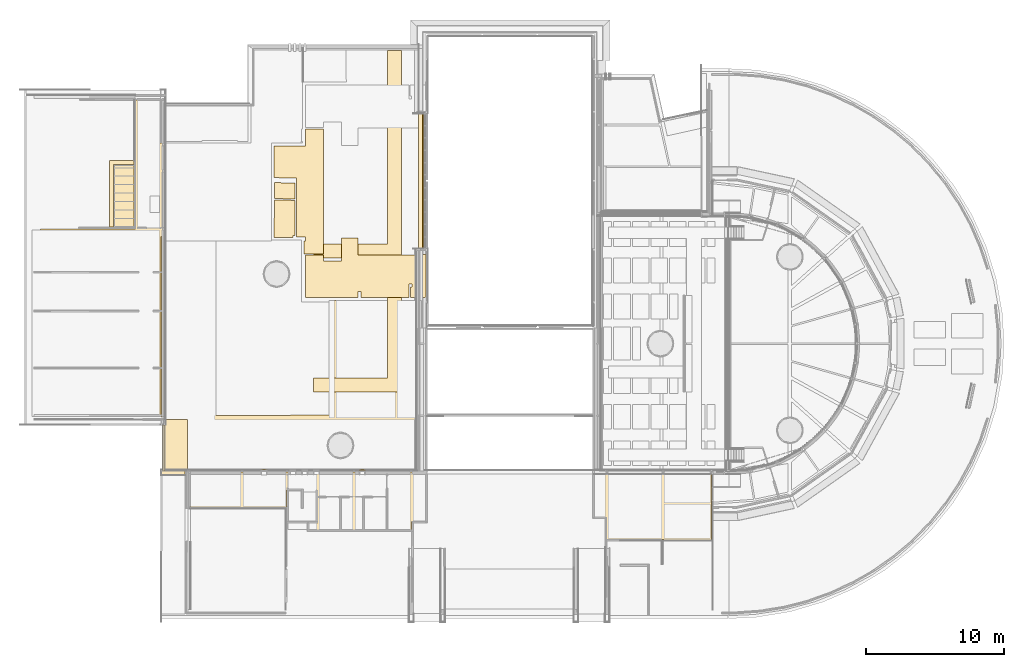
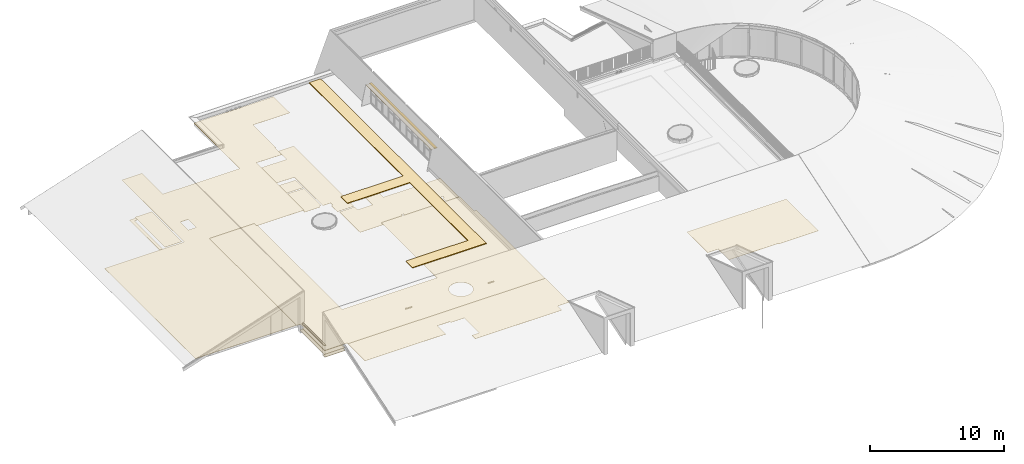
# One storey, part 55 of 66: 15 coverings, 3 windows, 2 openings.
"""IFC2X3 building model written with IfcOpenShell, lengths in millimetres."""

from ifc_helpers import new_model, entity, si_unit, converted_unit, derived_unit, direction, frame, frame_2d, origin, origin_2d_with_axis, place, context, subcontext, project, spatial, polyline, circle_curve, parameter, trimmed, segment, composite_curve, rectangle, circle, outline, extrude, clip, halfspace, source, transform, mapped, material, layer, layer_set, layer_usage, type_object, type_shapes, element, save


model = new_model("IFC2X3")

# Units and contexts
model_context = context("Model", 3, precision=0.01, world=origin(), true_north=direction((6.12303176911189e-17, 1.0)))
body_context = subcontext(model_context, "Body", "Model", "MODEL_VIEW")
ifc_project = project(units=[si_unit("LENGTHUNIT", "METRE", prefix="MILLI"), si_unit("AREAUNIT", "SQUARE_METRE"), si_unit("VOLUMEUNIT", "CUBIC_METRE"), converted_unit("PLANEANGLEUNIT", "DEGREE", entity("IfcRatioMeasure", 0.0174532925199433), si_unit("PLANEANGLEUNIT", "RADIAN"), dimensions=[0, 0, 0, 0, 0, 0, 0]), si_unit("MASSUNIT", "GRAM", prefix="KILO"), derived_unit("MASSDENSITYUNIT", [(si_unit("MASSUNIT", "GRAM", prefix="KILO"), 1), (si_unit("LENGTHUNIT", "METRE"), -3)]), derived_unit("MOMENTOFINERTIAUNIT", [(si_unit("LENGTHUNIT", "METRE"), 4)]), si_unit("TIMEUNIT", "SECOND"), si_unit("FREQUENCYUNIT", "HERTZ"), si_unit("THERMODYNAMICTEMPERATUREUNIT", "DEGREE_CELSIUS"), derived_unit("THERMALTRANSMITTANCEUNIT", [(si_unit("MASSUNIT", "GRAM", prefix="KILO"), 1), (si_unit("THERMODYNAMICTEMPERATUREUNIT", "KELVIN"), -1), (si_unit("TIMEUNIT", "SECOND"), -3)]), derived_unit("VOLUMETRICFLOWRATEUNIT", [(si_unit("LENGTHUNIT", "METRE"), 3), (si_unit("TIMEUNIT", "SECOND"), -1)]), si_unit("ELECTRICCURRENTUNIT", "AMPERE"), si_unit("ELECTRICVOLTAGEUNIT", "VOLT"), si_unit("POWERUNIT", "WATT"), si_unit("FORCEUNIT", "NEWTON", prefix="KILO"), si_unit("ILLUMINANCEUNIT", "LUX"), si_unit("LUMINOUSFLUXUNIT", "LUMEN"), si_unit("LUMINOUSINTENSITYUNIT", "CANDELA"), derived_unit("USERDEFINED", [(si_unit("MASSUNIT", "GRAM", prefix="KILO"), -1), (si_unit("LENGTHUNIT", "METRE"), -2), (si_unit("TIMEUNIT", "SECOND"), 3), (si_unit("LUMINOUSFLUXUNIT", "LUMEN"), 1)]), derived_unit("LINEARVELOCITYUNIT", [(si_unit("LENGTHUNIT", "METRE"), 1), (si_unit("TIMEUNIT", "SECOND"), -1)]), si_unit("PRESSUREUNIT", "PASCAL"), derived_unit("USERDEFINED", [(si_unit("LENGTHUNIT", "METRE"), -2), (si_unit("MASSUNIT", "GRAM", prefix="KILO"), 1), (si_unit("TIMEUNIT", "SECOND"), -2)]), derived_unit("LINEARFORCEUNIT", [(si_unit("MASSUNIT", "GRAM", prefix="KILO"), 1), (si_unit("LENGTHUNIT", "METRE"), 1), (si_unit("TIMEUNIT", "SECOND"), -2), (si_unit("LENGTHUNIT", "METRE"), -1)]), derived_unit("PLANARFORCEUNIT", [(si_unit("MASSUNIT", "GRAM", prefix="KILO"), 1), (si_unit("LENGTHUNIT", "METRE"), 1), (si_unit("TIMEUNIT", "SECOND"), -2), (si_unit("LENGTHUNIT", "METRE"), -2)])], contexts=[model_context])

# Site, building, storey
site_placement = place(None, origin())
site = spatial("IfcSite", under=ifc_project, at=site_placement, Name="Default", CompositionType="ELEMENT")
building_placement = place(site_placement, origin())
building = spatial("IfcBuilding", under=site, at=building_placement, Name="-", CompositionType="ELEMENT")
storey_placement = place(building_placement, frame((0.0, 0.0, 3070.0)))
storey = spatial("IfcBuildingStorey", under=building, at=storey_placement, Name="01 eerste verdieping", CompositionType="ELEMENT", Elevation=3070.00000000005)

# Windows
ifc_material_1 = material(Name="AL_31_Naaldhout (vuren)")
window_style_1 = type_object("IfcWindowStyle", Name="Bevestiging kozijn gymzaal:Bevestiging kozijn gymzaal", ConstructionType="NOTDEFINED", OperationType="NOTDEFINED", ParameterTakesPrecedence=False, Sizeable=False, material=ifc_material_1)
shared_shape_1 = source(origin(), body_context, "Body", "SweptSolid", [
    extrude(outline(polyline([(-40.8151987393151, -104.345411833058), (-2.02287521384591, -104.345411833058), (40.0309667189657, 100.524931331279), (2.80710723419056, 108.165892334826), (-40.8151987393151, -104.345411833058)])), frame((28568.4789217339, 26473.9768827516, 5194.30371120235), z_axis=(0.0, 1.0, 0.0), x_axis=(0.201077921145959, 0.0, 0.979575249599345)), (0.0, 0.0, 1.0), 9815.07846312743),
])
type_shapes(window_style_1, [shared_shape_1])
window_placement = place(storey_placement, frame((0.0, 0.0, -3070.0)))
element("IfcWindow", 1, at=window_placement, inside=storey, type_object=window_style_1, material=ifc_material_1, Name="Bevestiging kozijn gymzaal:Bevestiging kozijn gymzaal", ObjectType="Bevestiging kozijn gymzaal:Bevestiging kozijn gymzaal", OverallHeight=38.0000000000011, OverallWidth=216.942296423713, context=body_context, shape_type="MappedRepresentation", body=[
    mapped(shared_shape_1, transform((0.0, 0.0, 0.0), scale=1.0)),
])
ifc_material_2 = material(Name="f2_beton_grijs")
ifc_material_3 = material(Name="<Unnamed>")
window_style_2 = type_object("IfcWindowStyle", Name="NLRS_41_GM_UN_Aluminium waterslag Roval 410075_gen_aly:41.12_Aluminium waterslag Roval 305150", ConstructionType="NOTDEFINED", OperationType="NOTDEFINED", ParameterTakesPrecedence=False, Sizeable=False, material=ifc_material_3)
shared_shape_2 = source(origin(), body_context, "Body", "SweptSolid", [
    extrude(outline(composite_curve([segment(polyline([(-21.8745214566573, -41.3345080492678), (-5.05617427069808, -41.3345080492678)]), True, "CONTINUOUS"), segment(trimmed(circle_curve(frame_2d((-5.05617427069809, -39.8843127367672), x_axis=(0.0, 1.0)), 1.45019531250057), [parameter(180.0)], [parameter(254.646506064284)], True, "PARAMETER"), True, "CONTINUOUS"), segment(polyline([(-3.65773550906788, -40.2682860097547), (15.0642146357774, 29.6029831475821)]), True, "CONTINUOUS"), segment(trimmed(circle_curve(frame_2d((18.1610935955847, 28.6150158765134), x_axis=(0.0, 1.0)), 3.25065203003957), [parameter(3.05333249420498e-13)], [parameter(72.3062611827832)], True, "PARAMETER"), False, "CONTINUOUS"), segment(polyline([(18.1610935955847, 31.865667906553), (0.230000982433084, 31.865667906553)]), True, "CONTINUOUS"), segment(trimmed(circle_curve(frame_2d((0.230000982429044, 28.6150158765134), x_axis=(0.0, 1.0)), 3.25065203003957), [parameter(359.999999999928)], [parameter(72.3062611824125)], True, "PARAMETER"), True, "CONTINUOUS"), segment(polyline([(-2.8668779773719, 29.6029831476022), (-21.8745214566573, -41.3345080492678)]), True, "CONTINUOUS")], self_intersect=False)), frame((-225.000004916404, 43.134291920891, -21.8745214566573), z_axis=(1.0, 0.0, 0.0), x_axis=(0.0, 0.0, -1.0)), (0.0, 0.0, 1.0), 1.99999999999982),
    extrude(outline(composite_curve([segment(polyline([(-21.8745214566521, -41.3345080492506), (-5.05617427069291, -41.3345080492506)]), True, "CONTINUOUS"), segment(trimmed(circle_curve(frame_2d((-5.05617427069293, -39.8843127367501), x_axis=(0.0, 1.0)), 1.45019531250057), [parameter(180.0)], [parameter(254.646506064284)], True, "PARAMETER"), True, "CONTINUOUS"), segment(polyline([(-3.65773550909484, -40.2682860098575), (15.0642146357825, 29.6029831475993)]), True, "CONTINUOUS"), segment(trimmed(circle_curve(frame_2d((18.1610935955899, 28.6150158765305), x_axis=(0.0, 1.0)), 3.25065203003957), [parameter(0.0)], [parameter(72.3062611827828)], True, "PARAMETER"), False, "CONTINUOUS"), segment(polyline([(18.1610935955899, 31.8656679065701), (0.230000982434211, 31.8656679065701)]), True, "CONTINUOUS"), segment(trimmed(circle_curve(frame_2d((0.23000098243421, 28.6150158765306), x_axis=(0.0, 1.0)), 3.25065203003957), [parameter(360.0)], [parameter(72.306261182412)], True, "PARAMETER"), True, "CONTINUOUS"), segment(polyline([(-2.86687797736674, 29.6029831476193), (-21.8745214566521, -41.3345080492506)]), True, "CONTINUOUS")], self_intersect=False)), frame((223.000004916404, 43.1342919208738, -21.8745214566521), z_axis=(1.0, 0.0, 0.0), x_axis=(0.0, 0.0, -1.0)), (0.0, 0.0, 1.0), 2.00000000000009),
    extrude(outline(composite_curve([segment(trimmed(circle_curve(frame_2d((-19.6244848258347, -43.8319325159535), x_axis=(1.0, 0.0)), 3.25034539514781), [parameter(274.938063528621)], [parameter(352.029907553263)], True, "PARAMETER"), True, "CONTINUOUS"), segment(polyline([(-16.4055358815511, -44.28261298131), (-3.75463539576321, 27.0134435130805)]), True, "CONTINUOUS"), segment(trimmed(circle_curve(frame_2d((-2.43691935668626, 26.4078934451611), x_axis=(-0.0860788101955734, 0.996288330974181)), 1.4501953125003), [parameter(359.999999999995)], [parameter(60.3810176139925)], True, "PARAMETER"), False, "CONTINUOUS"), segment(polyline([(-2.56180183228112, 27.8533008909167), (25.0336187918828, 30.2375313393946)]), True, "CONTINUOUS"), segment(trimmed(circle_curve(frame_2d((25.1585012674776, 28.7921238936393), x_axis=(0.999999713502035, -0.00075696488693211)), 1.45079230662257), [parameter(359.976703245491)], [parameter(94.9814344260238)], True, "PARAMETER"), False, "CONTINUOUS"), segment(polyline([(26.6092924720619, 28.7904357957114), (26.6015561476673, 22.141656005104)]), True, "CONTINUOUS"), segment(polyline([(26.6015561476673, 22.141656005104), (28.4014911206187, 22.2971694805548)]), True, "CONTINUOUS"), segment(polyline([(28.4014911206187, 22.2971694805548), (28.4084993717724, 28.7886151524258)]), True, "CONTINUOUS"), segment(trimmed(circle_curve(frame_2d((25.1585012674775, 28.7921238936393), x_axis=(-0.0860788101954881, 0.996288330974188)), 3.25000000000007), [parameter(265.000079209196)], [parameter(359.802252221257)], True, "PARAMETER"), True, "CONTINUOUS"), segment(polyline([(24.8899220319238, 32.0310072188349), (-2.60186716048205, 29.6557304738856)]), True, "CONTINUOUS"), segment(trimmed(circle_curve(frame_2d((-2.32205490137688, 26.4171437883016), x_axis=(-0.999999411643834, 0.00108476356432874)), 3.25065203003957), [parameter(275.000215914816)], [parameter(347.306477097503)], True, "PARAMETER"), True, "CONTINUOUS"), segment(polyline([(-5.49248231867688, 27.1348683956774), (-18.1305070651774, -44.0886249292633)]), True, "CONTINUOUS"), segment(trimmed(circle_curve(frame_2d((-19.5568072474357, -43.8264527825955), x_axis=(0.0860788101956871, -0.996288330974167)), 1.45019531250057), [parameter(359.999999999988)], [parameter(74.6465060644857)], True, "PARAMETER"), False, "CONTINUOUS"), segment(polyline([(-19.4319761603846, -45.2712654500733), (-36.1878992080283, -46.7189687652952)]), True, "CONTINUOUS"), segment(polyline([(-36.1878992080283, -46.7189687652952), (-36.0329759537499, -48.5120724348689)]), True, "CONTINUOUS"), segment(polyline([(-36.0329759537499, -48.5120724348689), (-19.344698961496, -47.070213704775)]), True, "CONTINUOUS")], self_intersect=False)), frame((-225.000004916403, 45.2303359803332, -40.0750949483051), z_axis=(1.0, 0.0, 0.0), x_axis=(0.0, -0.0860788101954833, -0.996288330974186)), (0.0, 0.0, 1.0), 450.000009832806),
])
type_shapes(window_style_2, [shared_shape_2])
for number, where in (
    (2, (16965.0, 10424.124095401, 1346.0)),
    (3, (24080.0, 10424.124095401, 1200.0)),
):
    element("IfcWindow", number, at=place(storey_placement, frame(where)), inside=storey, type_object=window_style_2, material=ifc_material_2, Name="NLRS_41_GM_UN_Aluminium waterslag Roval 410075_gen_aly:41.12_Aluminium waterslag Roval 305150", ObjectType="NLRS_41_GM_UN_Aluminium waterslag Roval 410075_gen_aly:41.12_Aluminium waterslag Roval 305150", OverallHeight=70.8562411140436, OverallWidth=450.000009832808, context=body_context, shape_type="MappedRepresentation", body=[
        mapped(shared_shape_2, transform((0.0, 0.0, 0.0), scale=1.0)),
    ])

# Coverings
ifc_material_4 = material(Name="NLRS_f7_gipsplaat_gen")
ifc_layer_1 = layer(ifc_material_4, 15.0)
ifc_layer_set_1 = layer_set([ifc_layer_1], Name="Floor:NLRS_44_FL_verlaagd plafond")
ifc_layer_usage_1 = layer_usage(ifc_layer_set_1, "AXIS3", "POSITIVE", 0.0)
covering_type_1 = type_object("IfcCoveringType", Name="Floor:NLRS_44_FL_verlaagd plafond", PredefinedType="FLOORING", material=ifc_layer_set_1)
covering_1_placement = place(storey_placement, origin())
element("IfcCovering", 4, at=covering_1_placement, inside=storey, type_object=covering_type_1, material=ifc_layer_usage_1, Name="Floor:NLRS_44_FL_verlaagd plafond", ObjectType="Floor:NLRS_44_FL_verlaagd plafond", PredefinedType="FLOORING", context=body_context, shape_type="SweptSolid", body=[
    extrude(outline(polyline([(-1676.92716562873, -4719.39506153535), (1397.11768465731, -4719.39506153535), (1397.11768465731, -3398.60346455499), (966.82063611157, -3398.60346455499), (966.82063611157, -2120.02216262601), (2652.11768465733, -2120.02216262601), (2652.11768465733, -910.544539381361), (1427.11768465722, -905.605194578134), (1427.11768465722, 71.9486867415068), (1416.97846764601, 71.9486867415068), (1433.76357488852, 4007.3682094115), (-1676.92716562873, 3991.2991056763), (-1676.92716562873, 2886.11862446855), (-895.418024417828, 2886.11862446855), (-895.418024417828, 2993.87389242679), (-695.41802441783, 2993.87389242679), (-695.41802441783, 2796.11862446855), (-1676.92716562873, 2796.11862446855), (-1676.92716562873, -700.648964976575), (-1246.92716562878, -700.648964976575), (-1246.92716562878, -900.648964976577), (-1676.92716562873, -900.648964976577), (-1676.92716562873, -4719.39506153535)])), frame((24689.3950615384, 24622.7025658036, -410.0), z_axis=(0.0, 0.0, -1.0), x_axis=(0.0, 1.0, 0.0)), (0.0, 0.0, 1.0), 14.9999999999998),
])
ifc_layer_usage_2 = layer_usage(ifc_layer_set_1, "AXIS3", "POSITIVE", 0.0)
covering_type_2 = type_object("IfcCoveringType", Name="Floor:NLRS_44_FL_verlaagd plafond", PredefinedType="FLOORING", material=ifc_layer_set_1)
covering_2_placement = place(storey_placement, origin())
element("IfcCovering", 5, at=covering_2_placement, inside=storey, type_object=covering_type_2, material=ifc_layer_usage_2, Name="Floor:NLRS_44_FL_verlaagd plafond", ObjectType="Floor:NLRS_44_FL_verlaagd plafond", PredefinedType="FLOORING", context=body_context, shape_type="SweptSolid", body=[
    extrude(outline(polyline([(857.977658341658, -2048.12240914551), (3168.54112922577, -2048.12240914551), (3141.68142400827, 256.706512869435), (3451.70247352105, 256.706512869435), (3452.36187558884, 250.12327992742), (4381.13393866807, 250.12327992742), (4381.13393866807, 1570.91487690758), (-4660.66985698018, 1570.91487690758), (-4660.66985698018, 130.123279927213), (-3740.66985698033, 130.123279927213), (-3740.66985698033, 256.13117958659), (-3430.66985698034, 256.13117958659), (-3430.66985698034, -415.876720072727), (829.486703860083, -415.876720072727), (857.977658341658, -2048.12240914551)])), frame((19719.8767200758, 30780.4901074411, -410.0), z_axis=(0.0, 0.0, -1.0), x_axis=(0.0, 1.0, 0.0)), (0.0, 0.0, 1.0), 14.9999999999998),
])
ifc_layer_usage_3 = layer_usage(ifc_layer_set_1, "AXIS3", "POSITIVE", 0.0)
covering_type_3 = type_object("IfcCoveringType", Name="Floor:NLRS_44_FL_verlaagd plafond", PredefinedType="FLOORING", material=ifc_layer_set_1)
covering_3_placement = place(storey_placement, origin())
element("IfcCovering", 6, at=covering_3_placement, inside=storey, type_object=covering_type_3, material=ifc_layer_usage_3, Name="Floor:NLRS_44_FL_verlaagd plafond", ObjectType="Floor:NLRS_44_FL_verlaagd plafond", PredefinedType="FLOORING", context=body_context, shape_type="SweptSolid", body=[
    extrude(outline(polyline([(-395.906951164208, -956.384793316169), (948.812682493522, -956.384793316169), (943.8151221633, 1769.50609249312), (-550.406951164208, 1747.03308077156), (-550.406951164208, -801.884793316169), (-395.906951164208, -801.884793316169), (-395.906951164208, -956.384793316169)])), frame((18653.5930488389, 28250.4125148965, -410.0), z_axis=(0.0, 0.0, -1.0), x_axis=(-1.0, 0.0, 0.0)), (0.0, 0.0, 1.0), 14.9999999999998),
])
ifc_layer_usage_4 = layer_usage(ifc_layer_set_1, "AXIS3", "POSITIVE", 0.0)
covering_type_4 = type_object("IfcCoveringType", Name="Floor:NLRS_44_FL_verlaagd plafond", PredefinedType="FLOORING", material=ifc_layer_set_1)
covering_4_placement = place(storey_placement, origin())
element("IfcCovering", 7, at=covering_4_placement, inside=storey, type_object=covering_type_4, material=ifc_layer_usage_4, Name="Floor:NLRS_44_FL_verlaagd plafond", ObjectType="Floor:NLRS_44_FL_verlaagd plafond", PredefinedType="FLOORING", context=body_context, shape_type="SweptSolid", body=[
    extrude(outline(polyline([(-564.97735079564, -746.488700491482), (589.233223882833, -746.488700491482), (566.762969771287, 747.550020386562), (-591.018842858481, 745.427380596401), (-564.97735079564, -746.488700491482)])), frame((18457.5112995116, 30686.6901289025, -410.0), z_axis=(0.0, 0.0, -1.0), x_axis=(0.0, -1.0, 0.0)), (0.0, 0.0, 1.0), 14.9999999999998),
])
ifc_material_5 = material(Name="NLRS_i4_hout_multiplex")
ifc_layer_2 = layer(ifc_material_5, 18.0)
ifc_layer_set_2 = layer_set([ifc_layer_2], Name="Floor:NLRS_44_FL_Multiplex 18mm")
ifc_layer_usage_5 = layer_usage(ifc_layer_set_2, "AXIS3", "POSITIVE", 0.0)
covering_type_5 = type_object("IfcCoveringType", Name="Floor:NLRS_44_FL_Multiplex 18mm", PredefinedType="FLOORING", material=ifc_layer_set_2)
covering_5_placement = place(storey_placement, origin())
element("IfcCovering", 8, at=covering_5_placement, inside=storey, type_object=covering_type_5, material=ifc_layer_usage_5, Name="Floor:NLRS_44_FL_Multiplex 18mm", ObjectType="Floor:NLRS_44_FL_Multiplex 18mm", PredefinedType="FLOORING", context=body_context, shape_type="SweptSolid", body=[
    extrude(outline(polyline([(-168.366984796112, -9419.63654201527), (2404.1329581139, -9419.63654201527), (2404.1329581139, 7634.54786350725), (-1182.75984481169, 7634.54786350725), (-1182.75984481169, 6618.69925407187), (-1801.36411169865, 6618.69925407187), (-1801.36411169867, -839.254166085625), (-1282.75984481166, -839.254166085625), (-1282.75984481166, -193.452136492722), (953.740155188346, -193.452136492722), (953.74015518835, -1365.45213649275), (1077.37767281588, -1365.45213649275), (1077.37767281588, -2435.45213649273), (-168.366984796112, -2435.45213649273), (-168.366984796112, -9419.63654201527)])), frame((21046.1469708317, 7919.48820709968, 0.0), z_axis=(0.0, 0.0, -1.0), x_axis=(0.0, 1.0, 0.0)), (0.0, 0.0, 1.0), 18.0000000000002),
])
ifc_layer_usage_6 = layer_usage(ifc_layer_set_2, "AXIS3", "POSITIVE", 0.0)
covering_type_6 = type_object("IfcCoveringType", Name="Floor:NLRS_44_FL_Multiplex 18mm", PredefinedType="FLOORING", material=ifc_layer_set_2)
covering_6_placement = place(storey_placement, origin())
element("IfcCovering", 9, at=covering_6_placement, inside=storey, type_object=covering_type_6, material=ifc_layer_usage_6, Name="Floor:NLRS_44_FL_Multiplex 18mm", ObjectType="Floor:NLRS_44_FL_Multiplex 18mm", PredefinedType="FLOORING", context=body_context, shape_type="SweptSolid", body=[
    extrude(outline(polyline([(34.5957433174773, -3661.73632479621), (3157.73352255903, -3661.73632479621), (3157.73352255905, 4924.31725487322), (-1633.66463293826, 4924.31725487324), (-1633.66463293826, 1486.65539471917), (-1558.66463293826, 1486.65539471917), (-1558.66463293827, -2749.2363247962), (34.5957433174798, -2749.23632479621), (34.5957433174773, -3661.73632479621)])), frame((44457.3031352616, 6989.39057284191, 100.0), z_axis=(0.0, 0.0, -1.0), x_axis=(0.0, 1.0, 0.0)), (0.0, 0.0, 1.0), 18.0000000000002),
])

# Covering, opening
ifc_layer_usage_7 = layer_usage(ifc_layer_set_2, "AXIS3", "POSITIVE", 0.0)
covering_type_7 = type_object("IfcCoveringType", Name="Floor:NLRS_44_FL_Multiplex 18mm", PredefinedType="FLOORING", material=ifc_layer_set_2)
covering_7_placement = place(storey_placement, frame((789.48527187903, 14324.7535355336, -18.0)))
covering_7 = element("IfcCovering", 10, at=covering_7_placement, inside=storey, type_object=covering_type_7, material=ifc_layer_usage_7, Name="Floor:NLRS_44_FL_Multiplex 18mm", ObjectType="Floor:NLRS_44_FL_Multiplex 18mm", PredefinedType="FLOORING", context=body_context, shape_type="SweptSolid", body=[
    extrude(outline(polyline([(11067.1444199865, 269.232730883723), (4186.59942243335, 269.232730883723), (4186.59942243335, 9591.73273088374), (2456.62969186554, 9591.73273088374), (2456.62969186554, 6477.35952560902), (-4183.37030813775, 6477.35952560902), (-4183.37030813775, 13334.5003102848), (-11051.3108831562, 13334.5003102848), (-11067.1444199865, 10892.6399402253), (-7903.37030813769, 10905.9019802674), (-7903.37030813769, 7502.37020029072), (-7821.37030813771, 7502.37020029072), (-7821.37030813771, 6602.37020029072), (-7803.37030813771, 6602.37020029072), (-7803.37030813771, 6477.38994644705), (-5643.41151115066, 6507.7698525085), (-5636.37264038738, -625.558822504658), (-1556.07030813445, -613.10435802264), (-1556.07030813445, -273.065135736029), (2331.87969186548, -273.065135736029), (2331.87969186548, -13334.5003102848), (11067.1444199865, -13334.5003102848), (11067.1444199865, 269.232730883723)])), frame((11067.1444199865, 13334.5003102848, 18.0), z_axis=(0.0, 0.0, -1.0), x_axis=(-1.0, 0.0, 0.0)), (0.0, 0.0, 1.0), 18.0000000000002),
])
opening_1_placement = place(covering_7_placement, frame((8265.51472812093, 15400.7392643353, 18.0)))
element("IfcOpeningElement", 11, at=opening_1_placement, cuts=covering_7, Name="Floor:NLRS_44_FL_Multiplex 18mm:2", ObjectType="Opening", context=body_context, shape_type="SweptSolid", body=[
    extrude(rectangle(XDim=1190.0, YDim=689.999999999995, at=origin_2d_with_axis()), frame((0.0, 0.0, 0.0), z_axis=(0.0, 0.0, 1.0), x_axis=(0.0, -1.0, 0.0)), (0.0, 0.0, -1.0), 18.0000000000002),
])

# Covering
ifc_layer_3 = layer(ifc_material_5, 10.0)
ifc_layer_set_3 = layer_set([ifc_layer_3], Name="Floor:NLRS_44_Plaat 10 mm RAL 9003")
ifc_layer_usage_8 = layer_usage(ifc_layer_set_3, "AXIS3", "POSITIVE", 0.0)
covering_type_8 = type_object("IfcCoveringType", Name="Floor:NLRS_44_Plaat 10 mm RAL 9003", PredefinedType="FLOORING", material=ifc_layer_set_3)
covering_8_placement = place(storey_placement, origin())
element("IfcCovering", 12, at=covering_8_placement, inside=storey, type_object=covering_type_8, material=ifc_layer_usage_8, Name="Floor:NLRS_44_Plaat 10 mm RAL 9003", ObjectType="Floor:NLRS_44_Plaat 10 mm RAL 9003", PredefinedType="FLOORING", context=body_context, shape_type="SweptSolid", body=[
    extrude(rectangle(XDim=9779.07846312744, YDim=398.963180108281, at=frame_2d((-2.27373675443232e-12, 0.0), x_axis=(1.0, 0.0))), frame((28361.492614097, 31381.5161143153, 2105.30371120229), z_axis=(0.0, 0.0, -1.0), x_axis=(0.0, 1.0, 0.0)), (0.0, 0.0, 1.0), 9.99999999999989),
])

# Covering, opening
ifc_layer_usage_9 = layer_usage(ifc_layer_set_2, "AXIS3", "POSITIVE", 0.0)
covering_type_9 = type_object("IfcCoveringType", Name="Floor:NLRS_44_FL_Multiplex 18mm", PredefinedType="FLOORING", material=ifc_layer_set_2)
covering_9_placement = place(storey_placement, frame((9520.0, 10323.6254248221, -18.0)))
covering_9 = element("IfcCovering", 13, at=covering_9_placement, inside=storey, type_object=covering_type_9, material=ifc_layer_usage_9, Name="Floor:NLRS_44_FL_Multiplex 18mm", ObjectType="Floor:NLRS_44_FL_Multiplex 18mm", PredefinedType="FLOORING", context=body_context, shape_type="SweptSolid", body=[
    extrude(outline(polyline([(-9374.84741716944, 3880.86833272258), (-9374.84741716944, 1751.41318300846), (-9575.84741716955, 1751.41318300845), (-9575.84741716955, -8531.28164263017), (7462.8369883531, -8531.28164263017), (7462.8369883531, -8425.08681698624), (9407.84741716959, -8425.08681698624), (9407.84741716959, -5121.09009653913), (9247.84741716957, -5121.09009653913), (9247.84741716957, -4560.16693785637), (9575.84741716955, -4560.16693785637), (9575.84741716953, 8531.28164263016), (5683.14741716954, 8531.28164263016), (5683.14741716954, 8191.24242034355), (5595.84741716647, 8190.97600657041), (5595.84741716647, -4447.61810854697), (-2593.15258283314, -4414.91321267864), (-2593.15258283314, 3880.86833272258), (-9374.84741716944, 3880.86833272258)])), frame((9575.84741716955, 8531.28164263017, 18.0), z_axis=(0.0, 0.0, -1.0), x_axis=(-1.0, 0.0, 0.0)), (0.0, 0.0, 1.0), 18.0000000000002),
])
opening_2_placement = place(covering_9_placement, frame((12986.9690457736, 1916.76700839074, 18.0)))
element("IfcOpeningElement", 14, at=opening_2_placement, cuts=covering_9, Name="Floor:NLRS_44_FL_Multiplex 18mm:2", ObjectType="Opening", context=body_context, shape_type="SweptSolid", body=[
    extrude(circle(Radius=910.000000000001, at=origin_2d_with_axis()), frame((0.0, 0.0, 0.0), z_axis=(0.0, 0.0, -1.0), x_axis=(1.0, 0.0, 0.0)), (0.0, 0.0, 1.0), 18.0000000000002),
])

# Coverings
ifc_layer_4 = layer(ifc_material_5, 15.0)
ifc_layer_set_4 = layer_set([ifc_layer_4], Name="Floor:NLRS_44_FL_Multiplex 15mm")
ifc_layer_usage_10 = layer_usage(ifc_layer_set_4, "AXIS3", "POSITIVE", 0.0)
covering_type_10 = type_object("IfcCoveringType", Name="Floor:NLRS_44_FL_Multiplex 15mm", PredefinedType="FLOORING", material=ifc_layer_set_4)
covering_10_placement = place(storey_placement, origin())
element("IfcCovering", 15, at=covering_10_placement, inside=storey, type_object=covering_type_10, material=ifc_layer_usage_10, Name="Floor:NLRS_44_FL_Multiplex 15mm", ObjectType="Floor:NLRS_44_FL_Multiplex 15mm", PredefinedType="FLOORING", context=body_context, shape_type="Clipping", body=[
    clip(clip(extrude(rectangle(XDim=159.099735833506, YDim=3333.19287551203, at=frame_2d((0.0, 0.0), x_axis=(0.0, 1.0))), frame((9706.60742172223, 12062.2205331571, 489.100000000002), z_axis=(-0.0628536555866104, 0.0, -0.998022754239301), x_axis=(0.0, 1.0, 0.0)), (0.0, 0.0628536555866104, 0.998022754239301), 15.0297174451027), halfspace(frame((9706.60742172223, 12062.2205331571, 474.100000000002), z_axis=(-0.0628536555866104, 0.0, -0.998022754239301), x_axis=(0.0, -1.0, 0.0)), False)), halfspace(frame((9706.60742172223, 12062.2205331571, 489.100000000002), z_axis=(0.0628536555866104, 0.0, 0.998022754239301), x_axis=(0.0, -1.0, 0.0)), False)),
])
ifc_material_6 = material(Name="n6_kunststof_RAL 7035")
ifc_layer_5 = layer(ifc_material_6, 10.0)
ifc_layer_set_5 = layer_set([ifc_layer_5], Name="Floor:NLRS_44_Plaat 10 mm RAL 7035")
ifc_layer_usage_11 = layer_usage(ifc_layer_set_5, "AXIS3", "POSITIVE", 0.0)
covering_type_11 = type_object("IfcCoveringType", Name="Floor:NLRS_44_Plaat 10 mm RAL 7035", PredefinedType="FLOORING", material=ifc_layer_set_5)
covering_11_placement = place(storey_placement, origin())
element("IfcCovering", 16, at=covering_11_placement, inside=storey, type_object=covering_type_11, material=ifc_layer_usage_11, Name="Floor:NLRS_44_Plaat 10 mm RAL 7035", ObjectType="Floor:NLRS_44_Plaat 10 mm RAL 7035", PredefinedType="FLOORING", context=body_context, shape_type="SweptSolid", body=[
    extrude(rectangle(XDim=3701.2683378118, YDim=1769.50000000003, at=frame_2d((0.0, 1.64845914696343e-12), x_axis=(1.0, 0.0))), frame((10555.7499999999, 12274.758264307, -360.0), z_axis=(0.0, 0.0, -1.0), x_axis=(0.0, 1.0, 0.0)), (0.0, 0.0, 1.0), 9.99999999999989),
])
ifc_material_7 = material(Name="NLRS_i4_hout_multiplex zwart")
ifc_layer_6 = layer(ifc_material_7, 10.0)
ifc_layer_set_6 = layer_set([ifc_layer_6], Name="Floor:NLRS_44_Plaat 10 mm zwart")
ifc_layer_usage_12 = layer_usage(ifc_layer_set_6, "AXIS3", "POSITIVE", 0.0)
covering_type_12 = type_object("IfcCoveringType", Name="Floor:NLRS_44_Plaat 10 mm zwart", PredefinedType="FLOORING", material=ifc_layer_set_6)
covering_12_placement = place(storey_placement, origin())
element("IfcCovering", 17, at=covering_12_placement, inside=storey, type_object=covering_type_12, material=ifc_layer_usage_12, Name="Floor:NLRS_44_Plaat 10 mm zwart", ObjectType="Floor:NLRS_44_Plaat 10 mm zwart", PredefinedType="FLOORING", context=body_context, shape_type="SweptSolid", body=[
    extrude(rectangle(XDim=318.000000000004, YDim=1740.51042881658, at=frame_2d((-1.08002495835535e-12, 5.11590769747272e-13), x_axis=(1.0, 0.0))), frame((10386.2552144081, 10260.1240954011, -350.0), z_axis=(0.0, 0.0, -1.0), x_axis=(0.0, 1.0, 0.0)), (0.0, 0.0, 1.0), 9.99999999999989),
])
ifc_layer_usage_13 = layer_usage(ifc_layer_set_2, "AXIS3", "POSITIVE", 0.0)
covering_type_13 = type_object("IfcCoveringType", Name="Floor:NLRS_44_FL_Multiplex 18mm", PredefinedType="FLOORING", material=ifc_layer_set_2)
covering_13_placement = place(storey_placement, origin())
element("IfcCovering", 18, at=covering_13_placement, inside=storey, type_object=covering_type_13, material=ifc_layer_usage_13, Name="Floor:NLRS_44_FL_Multiplex 18mm", ObjectType="Floor:NLRS_44_FL_Multiplex 18mm", PredefinedType="FLOORING", context=body_context, shape_type="SweptSolid", body=[
    extrude(rectangle(XDim=4509.50000000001, YDim=1459.33218721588, at=frame_2d((4.32009983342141e-12, 0.0), x_axis=(1.0, 0.0))), frame((6819.86417582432, 30311.2365767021, 0.0), z_axis=(0.0, 0.0, -1.0), x_axis=(0.0, 1.0, 0.0)), (0.0, 0.0, 1.0), 18.0000000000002),
])
ifc_layer_usage_14 = layer_usage(ifc_layer_set_2, "AXIS3", "POSITIVE", 0.0)
covering_type_14 = type_object("IfcCoveringType", Name="Floor:NLRS_44_FL_Multiplex 18mm", PredefinedType="FLOORING", material=ifc_layer_set_2)
covering_14_placement = place(storey_placement, origin())
element("IfcCovering", 19, at=covering_14_placement, inside=storey, type_object=covering_type_14, material=ifc_layer_usage_14, Name="Floor:NLRS_44_FL_Multiplex 18mm", ObjectType="Floor:NLRS_44_FL_Multiplex 18mm", PredefinedType="FLOORING", context=body_context, shape_type="SweptSolid", body=[
    extrude(outline(polyline([(-3112.33333333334, -680.444062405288), (1697.16666666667, -680.444062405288), (1697.16666666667, 1078.88812481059), (1415.16666666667, 1078.88812481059), (1415.16666666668, -398.444062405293), (-3112.33333333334, -398.444062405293), (-3112.33333333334, -680.444062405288)])), frame((6470.64214462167, 31168.8199100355, -336.0), z_axis=(0.0, 0.0, -1.0), x_axis=(0.0, 1.0, 0.0)), (0.0, 0.0, 1.0), 18.0000000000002),
])
ifc_material_8 = material(Name="NLRS_f2_beton 300x300x60mm")
ifc_layer_7 = layer(ifc_material_8, 60.0)
ifc_layer_set_7 = layer_set([ifc_layer_7], Name="Floor:NLRS_90_FL_bestrating n.t.b._gen_aly")
ifc_layer_usage_15 = layer_usage(ifc_layer_set_7, "AXIS3", "POSITIVE", 0.0)
covering_type_15 = type_object("IfcCoveringType", Name="Floor:NLRS_90_FL_bestrating n.t.b._gen_aly", PredefinedType="FLOORING", material=ifc_layer_set_7)
covering_15_placement = place(storey_placement, origin())
element("IfcCovering", 20, at=covering_15_placement, inside=storey, type_object=covering_type_15, material=ifc_layer_usage_15, Name="Floor:NLRS_90_FL_bestrating n.t.b._gen_aly", ObjectType="Floor:NLRS_90_FL_bestrating n.t.b._gen_aly", PredefinedType="FLOORING", context=body_context, shape_type="SweptSolid", body=[
    extrude(outline(polyline([(-9231.30574694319, -3420.79999999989), (-8231.30574694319, -3420.79999999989), (-8231.305746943, 1947.20000000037), (473.11140684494, 1947.20000000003), (473.111406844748, -3420.79999999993), (1473.11140684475, -3420.79999999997), (1473.11140684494, 1947.19999999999), (15516.3886801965, 1947.19999999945), (15516.3886801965, 2947.19999999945), (-9231.30574694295, 2947.20000000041), (-9231.30574694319, -3420.79999999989)])), frame((23975.4948343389, 25347.3654759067, 310.0), z_axis=(0.0, 0.0, -1.0), x_axis=(0.0, 1.0, 0.0)), (0.0, 0.0, 1.0), 59.9999999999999),
])

save(model, "model.ifc")
